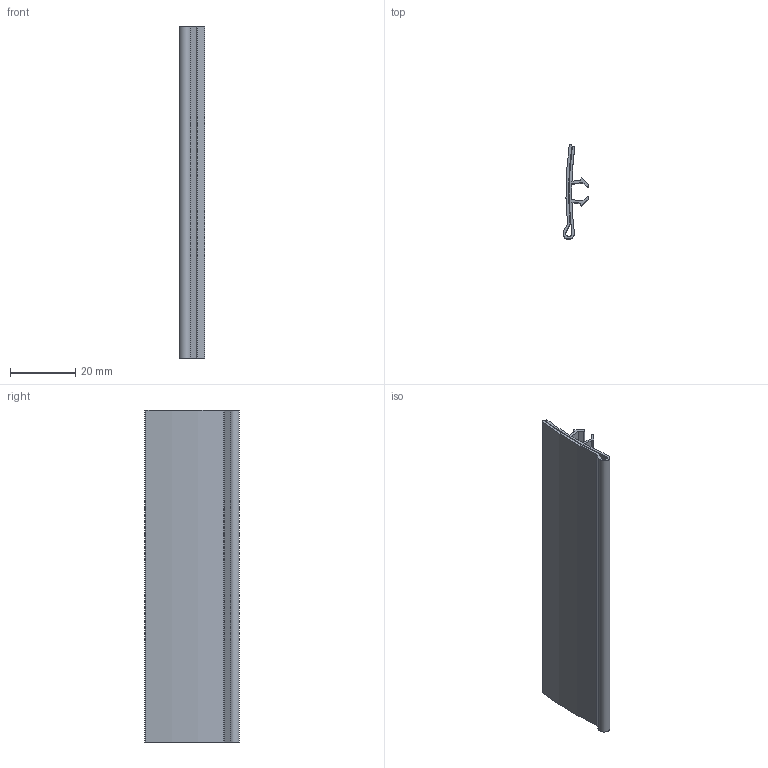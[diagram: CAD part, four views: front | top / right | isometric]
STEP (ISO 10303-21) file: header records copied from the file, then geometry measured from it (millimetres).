
FILE_DESCRIPTION(/* description */ ('STEP AP214'),/* implementation_level */ '2;1');
FILE_NAME(/* name */ '093LC23N08S01.102',/* time_stamp */ '2023-08-29T08:58:33+02:00',/* author */ ('License CC BY-ND 4.0'),/* organization */ ('CADENAS'),/* preprocessor_version */ 'ST-DEVELOPER v19.3',/* originating_system */ 'PARTsolutions',/* authorisation */ ' ');
FILE_SCHEMA (('AUTOMOTIVE_DESIGN {1 0 10303 214 3 1 1}'));
Length unit declared in the file: millimetre
Products named in the file (1): 093LC23N08S01.102
Bounding box: 7.98 x 29.01 x 102 mm (x, y, z)
Volume: 5808.6 mm3; surface area: 14648.5 mm2
Topology: 1 solids, 1 shells, 30 faces, 84 edges, 56 vertices
Faces by surface type: cylinder 16, plane 14
Entity records: 1010 total; most frequent: DIRECTION 178, CARTESIAN_POINT 171, ORIENTED_EDGE 168, EDGE_CURVE 84, AXIS2_PLACEMENT_3D 63, VERTEX_POINT 56, LINE 52, VECTOR 52
